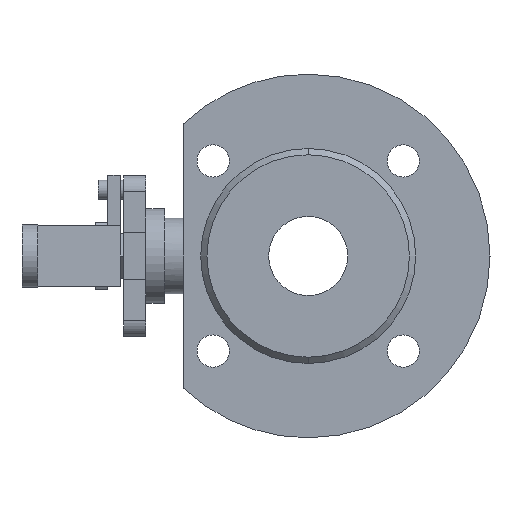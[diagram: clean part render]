
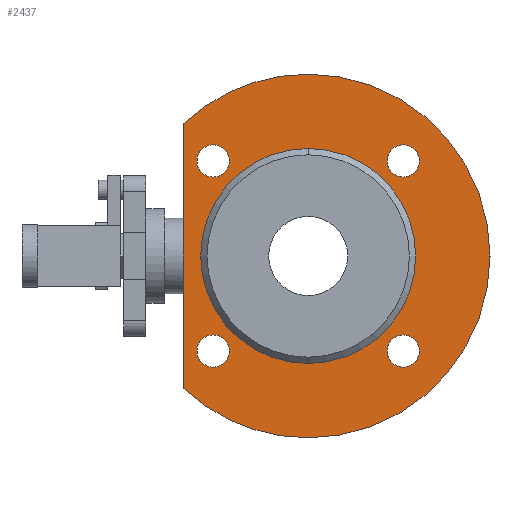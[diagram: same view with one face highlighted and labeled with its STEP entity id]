
A CAD part, left-side view. The second image highlights one B-rep face of the part: STEP entity #2437.
In plain terms, the highlighted planar face has unit normal (-1, 0, 0).
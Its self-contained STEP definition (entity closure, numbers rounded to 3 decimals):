
#24 = DIRECTION ( 'NONE',  ( 0., 0., 1. ) ) ;
#31 = EDGE_LOOP ( 'NONE', ( #791, #3193 ) ) ;
#42 = DIRECTION ( 'NONE',  ( 0., 0., 1. ) ) ;
#49 = CARTESIAN_POINT ( 'NONE',  ( -24.5, 30.052, 24.952 ) ) ;
#59 = AXIS2_PLACEMENT_3D ( 'NONE', #2537, #665, #2855 ) ;
#106 = EDGE_CURVE ( 'NONE', #2704, #2067, #3874, .T. ) ;
#187 = CARTESIAN_POINT ( 'NONE',  ( -24.5, 30.052, -35.152 ) ) ;
#206 = CIRCLE ( 'NONE', #1584, 5.1 ) ;
#266 = LINE ( 'NONE', #1564, #1818 ) ;
#298 = CARTESIAN_POINT ( 'NONE',  ( -24.5, 30.052, -30.052 ) ) ;
#320 = EDGE_LOOP ( 'NONE', ( #1724, #1515 ) ) ;
#444 = FACE_BOUND ( 'NONE', #1770, .T. ) ;
#504 = DIRECTION ( 'NONE',  ( -1., 0., 0. ) ) ;
#506 = EDGE_CURVE ( 'NONE', #2946, #2032, #1854, .T. ) ;
#613 = DIRECTION ( 'NONE',  ( 0., 1., 0. ) ) ;
#622 = ORIENTED_EDGE ( 'NONE', *, *, #2161, .F. ) ;
#624 = ORIENTED_EDGE ( 'NONE', *, *, #2336, .F. ) ;
#644 = CIRCLE ( 'NONE', #2482, 5.1 ) ;
#665 = DIRECTION ( 'NONE',  ( 1., 0., 0. ) ) ;
#692 = CIRCLE ( 'NONE', #766, 5.1 ) ;
#706 = DIRECTION ( 'NONE',  ( -1., 0., 0. ) ) ;
#712 = ORIENTED_EDGE ( 'NONE', *, *, #2608, .T. ) ;
#720 = EDGE_LOOP ( 'NONE', ( #624, #1635 ) ) ;
#766 = AXIS2_PLACEMENT_3D ( 'NONE', #1711, #3909, #2024 ) ;
#791 = ORIENTED_EDGE ( 'NONE', *, *, #3076, .F. ) ;
#823 = CIRCLE ( 'NONE', #2378, 57.5 ) ;
#894 = ORIENTED_EDGE ( 'NONE', *, *, #982, .T. ) ;
#902 = VERTEX_POINT ( 'NONE', #2812 ) ;
#931 = CARTESIAN_POINT ( 'NONE',  ( -24.5, -30.052, 24.952 ) ) ;
#945 = VERTEX_POINT ( 'NONE', #1885 ) ;
#982 = EDGE_CURVE ( 'NONE', #3713, #2946, #823, .T. ) ;
#1035 = CARTESIAN_POINT ( 'NONE',  ( -24.5, 30.052, 35.152 ) ) ;
#1053 = DIRECTION ( 'NONE',  ( -1., 0., 0. ) ) ;
#1088 = CIRCLE ( 'NONE', #3619, 5.1 ) ;
#1119 = DIRECTION ( 'NONE',  ( -1., 0., 0. ) ) ;
#1156 = CARTESIAN_POINT ( 'NONE',  ( -24.5, -30.052, -30.052 ) ) ;
#1237 = ORIENTED_EDGE ( 'NONE', *, *, #506, .T. ) ;
#1261 = ORIENTED_EDGE ( 'NONE', *, *, #3964, .F. ) ;
#1280 = FACE_BOUND ( 'NONE', #31, .T. ) ;
#1297 = CARTESIAN_POINT ( 'NONE',  ( -24.5, 0., -57.5 ) ) ;
#1350 = ORIENTED_EDGE ( 'NONE', *, *, #1625, .T. ) ;
#1355 = VERTEX_POINT ( 'NONE', #3955 ) ;
#1444 = ORIENTED_EDGE ( 'NONE', *, *, #4031, .F. ) ;
#1463 = DIRECTION ( 'NONE',  ( 0., 0., -1. ) ) ;
#1486 = CARTESIAN_POINT ( 'NONE',  ( -24.5, -30.052, 35.152 ) ) ;
#1508 = AXIS2_PLACEMENT_3D ( 'NONE', #2933, #1053, #3247 ) ;
#1515 = ORIENTED_EDGE ( 'NONE', *, *, #106, .F. ) ;
#1517 = CARTESIAN_POINT ( 'NONE',  ( -24.5, 0., 34. ) ) ;
#1533 = CARTESIAN_POINT ( 'NONE',  ( -24.5, 30.052, 30.052 ) ) ;
#1564 = CARTESIAN_POINT ( 'NONE',  ( -24.5, 39.5, 0. ) ) ;
#1572 = VERTEX_POINT ( 'NONE', #931 ) ;
#1584 = AXIS2_PLACEMENT_3D ( 'NONE', #1533, #3730, #1850 ) ;
#1625 = EDGE_CURVE ( 'NONE', #2032, #902, #266, .T. ) ;
#1635 = ORIENTED_EDGE ( 'NONE', *, *, #2896, .F. ) ;
#1680 = CARTESIAN_POINT ( 'NONE',  ( -24.5, 0., 0. ) ) ;
#1711 = CARTESIAN_POINT ( 'NONE',  ( -24.5, -30.052, 30.052 ) ) ;
#1722 = ORIENTED_EDGE ( 'NONE', *, *, #2021, .F. ) ;
#1724 = ORIENTED_EDGE ( 'NONE', *, *, #3043, .F. ) ;
#1753 = AXIS2_PLACEMENT_3D ( 'NONE', #2371, #504, #2696 ) ;
#1770 = EDGE_LOOP ( 'NONE', ( #1261, #1444 ) ) ;
#1818 = VECTOR ( 'NONE', #3765, 1000. ) ;
#1844 = DIRECTION ( 'NONE',  ( -1., 0., 0. ) ) ;
#1850 = DIRECTION ( 'NONE',  ( 0., 0., 1. ) ) ;
#1854 = CIRCLE ( 'NONE', #4018, 57.5 ) ;
#1878 = EDGE_LOOP ( 'NONE', ( #712, #894, #1237, #1350 ) ) ;
#1881 = DIRECTION ( 'NONE',  ( -1., 0., 0. ) ) ;
#1885 = CARTESIAN_POINT ( 'NONE',  ( -24.5, 0., -34. ) ) ;
#1901 = DIRECTION ( 'NONE',  ( -1., 0., 0. ) ) ;
#1981 = AXIS2_PLACEMENT_3D ( 'NONE', #298, #2483, #613 ) ;
#1996 = DIRECTION ( 'NONE',  ( 0., 0., 1. ) ) ;
#2021 = EDGE_CURVE ( 'NONE', #1572, #2832, #1088, .T. ) ;
#2024 = DIRECTION ( 'NONE',  ( 0., -1., 0. ) ) ;
#2032 = VERTEX_POINT ( 'NONE', #3525 ) ;
#2067 = VERTEX_POINT ( 'NONE', #2613 ) ;
#2161 = EDGE_CURVE ( 'NONE', #2832, #1572, #692, .T. ) ;
#2183 = CIRCLE ( 'NONE', #3021, 5.1 ) ;
#2211 = FACE_BOUND ( 'NONE', #720, .T. ) ;
#2235 = CARTESIAN_POINT ( 'NONE',  ( -24.5, -30.052, -24.952 ) ) ;
#2311 = AXIS2_PLACEMENT_3D ( 'NONE', #3498, #3166, #3484 ) ;
#2336 = EDGE_CURVE ( 'NONE', #3835, #2430, #206, .T. ) ;
#2371 = CARTESIAN_POINT ( 'NONE',  ( -24.5, -30.052, -30.052 ) ) ;
#2378 = AXIS2_PLACEMENT_3D ( 'NONE', #3779, #1901, #42 ) ;
#2379 = CIRCLE ( 'NONE', #1981, 5.1 ) ;
#2412 = CARTESIAN_POINT ( 'NONE',  ( -24.5, 0., 57.5 ) ) ;
#2430 = VERTEX_POINT ( 'NONE', #49 ) ;
#2437 = ADVANCED_FACE ( 'NONE', ( #3780, #444, #2942, #2211, #1280, #3679 ), #3786, .F. ) ;
#2449 = VERTEX_POINT ( 'NONE', #2235 ) ;
#2475 = CIRCLE ( 'NONE', #1753, 5.1 ) ;
#2482 = AXIS2_PLACEMENT_3D ( 'NONE', #3724, #1844, #4049 ) ;
#2483 = DIRECTION ( 'NONE',  ( -1., 0., 0. ) ) ;
#2537 = CARTESIAN_POINT ( 'NONE',  ( -24.5, 57.5, 0. ) ) ;
#2583 = CARTESIAN_POINT ( 'NONE',  ( -24.5, -30.052, 30.052 ) ) ;
#2598 = CIRCLE ( 'NONE', #3607, 34. ) ;
#2608 = EDGE_CURVE ( 'NONE', #902, #3713, #3183, .T. ) ;
#2613 = CARTESIAN_POINT ( 'NONE',  ( -24.5, 30.052, -24.952 ) ) ;
#2696 = DIRECTION ( 'NONE',  ( 0., 0., -1. ) ) ;
#2704 = VERTEX_POINT ( 'NONE', #187 ) ;
#2706 = EDGE_CURVE ( 'NONE', #3538, #945, #2598, .T. ) ;
#2812 = CARTESIAN_POINT ( 'NONE',  ( -24.5, 39.5, -41.785 ) ) ;
#2829 = AXIS2_PLACEMENT_3D ( 'NONE', #3761, #1881, #24 ) ;
#2832 = VERTEX_POINT ( 'NONE', #1486 ) ;
#2855 = DIRECTION ( 'NONE',  ( 0., 0., -1. ) ) ;
#2895 = DIRECTION ( 'NONE',  ( 0., -1., 0. ) ) ;
#2896 = EDGE_CURVE ( 'NONE', #2430, #3835, #644, .T. ) ;
#2933 = CARTESIAN_POINT ( 'NONE',  ( -24.5, 0., 0. ) ) ;
#2942 = FACE_BOUND ( 'NONE', #320, .T. ) ;
#2946 = VERTEX_POINT ( 'NONE', #2412 ) ;
#2995 = CARTESIAN_POINT ( 'NONE',  ( -24.5, 0., 0. ) ) ;
#3021 = AXIS2_PLACEMENT_3D ( 'NONE', #1156, #3353, #1463 ) ;
#3043 = EDGE_CURVE ( 'NONE', #2067, #2704, #2379, .T. ) ;
#3076 = EDGE_CURVE ( 'NONE', #945, #3538, #3956, .T. ) ;
#3166 = DIRECTION ( 'NONE',  ( -1., 0., 0. ) ) ;
#3183 = CIRCLE ( 'NONE', #1508, 57.5 ) ;
#3193 = ORIENTED_EDGE ( 'NONE', *, *, #2706, .F. ) ;
#3247 = DIRECTION ( 'NONE',  ( 0., 0., 1. ) ) ;
#3315 = DIRECTION ( 'NONE',  ( 0., 0., 1. ) ) ;
#3353 = DIRECTION ( 'NONE',  ( -1., 0., 0. ) ) ;
#3484 = DIRECTION ( 'NONE',  ( 0., 1., 0. ) ) ;
#3498 = CARTESIAN_POINT ( 'NONE',  ( -24.5, 30.052, -30.052 ) ) ;
#3525 = CARTESIAN_POINT ( 'NONE',  ( -24.5, 39.5, 41.785 ) ) ;
#3538 = VERTEX_POINT ( 'NONE', #1517 ) ;
#3607 = AXIS2_PLACEMENT_3D ( 'NONE', #2995, #1119, #3315 ) ;
#3619 = AXIS2_PLACEMENT_3D ( 'NONE', #2583, #706, #2895 ) ;
#3679 = FACE_OUTER_BOUND ( 'NONE', #1878, .T. ) ;
#3713 = VERTEX_POINT ( 'NONE', #1297 ) ;
#3724 = CARTESIAN_POINT ( 'NONE',  ( -24.5, 30.052, 30.052 ) ) ;
#3730 = DIRECTION ( 'NONE',  ( -1., 0., 0. ) ) ;
#3761 = CARTESIAN_POINT ( 'NONE',  ( -24.5, 0., 0. ) ) ;
#3765 = DIRECTION ( 'NONE',  ( 0., 0., -1. ) ) ;
#3779 = CARTESIAN_POINT ( 'NONE',  ( -24.5, 0., 0. ) ) ;
#3780 = FACE_BOUND ( 'NONE', #3931, .T. ) ;
#3786 = PLANE ( 'NONE',  #59 ) ;
#3835 = VERTEX_POINT ( 'NONE', #1035 ) ;
#3874 = CIRCLE ( 'NONE', #2311, 5.1 ) ;
#3879 = DIRECTION ( 'NONE',  ( -1., 0., 0. ) ) ;
#3909 = DIRECTION ( 'NONE',  ( -1., 0., 0. ) ) ;
#3931 = EDGE_LOOP ( 'NONE', ( #622, #1722 ) ) ;
#3955 = CARTESIAN_POINT ( 'NONE',  ( -24.5, -30.052, -35.152 ) ) ;
#3956 = CIRCLE ( 'NONE', #2829, 34. ) ;
#3964 = EDGE_CURVE ( 'NONE', #2449, #1355, #2475, .T. ) ;
#4018 = AXIS2_PLACEMENT_3D ( 'NONE', #1680, #3879, #1996 ) ;
#4031 = EDGE_CURVE ( 'NONE', #1355, #2449, #2183, .T. ) ;
#4049 = DIRECTION ( 'NONE',  ( 0., 0., 1. ) ) ;
